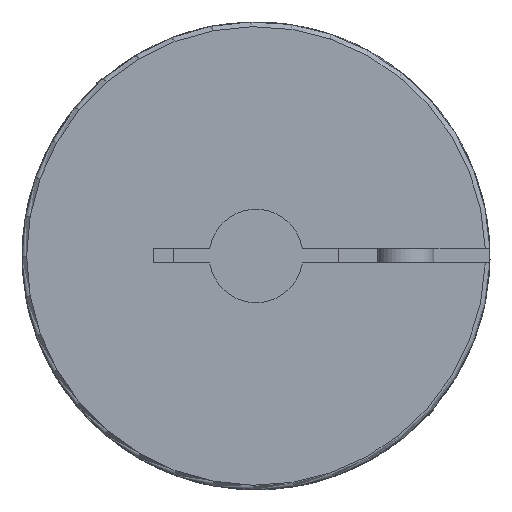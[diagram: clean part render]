
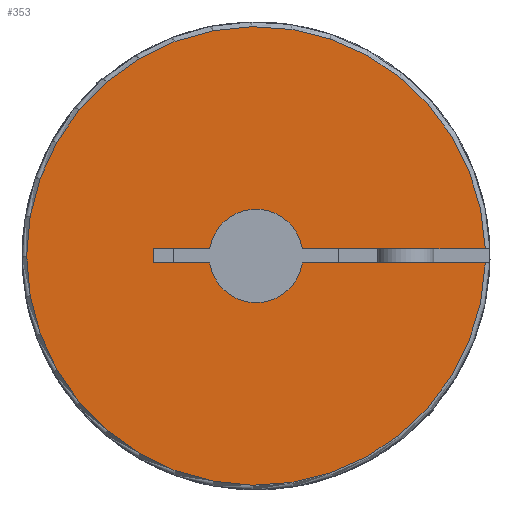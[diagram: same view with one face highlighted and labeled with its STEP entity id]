
A CAD part, left-side view. The second image highlights one B-rep face of the part: STEP entity #353.
In plain terms, the highlighted planar face has unit normal (-1, 0, 0).
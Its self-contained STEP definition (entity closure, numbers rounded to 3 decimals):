
#353 = ADVANCED_FACE( '', ( #764 ), #765, .T. );
#764 = FACE_OUTER_BOUND( '', #1417, .T. );
#765 = PLANE( '', #1418 );
#1417 = EDGE_LOOP( '', ( #2556, #2557, #2558, #2559, #2560, #2561, #2562, #2563 ) );
#1418 = AXIS2_PLACEMENT_3D( '', #2564, #2565, #2566 );
#2556 = ORIENTED_EDGE( '', *, *, #3126, .T. );
#2557 = ORIENTED_EDGE( '', *, *, #3274, .T. );
#2558 = ORIENTED_EDGE( '', *, *, #3290, .T. );
#2559 = ORIENTED_EDGE( '', *, *, #3204, .T. );
#2560 = ORIENTED_EDGE( '', *, *, #3163, .T. );
#2561 = ORIENTED_EDGE( '', *, *, #3374, .T. );
#2562 = ORIENTED_EDGE( '', *, *, #3324, .T. );
#2563 = ORIENTED_EDGE( '', *, *, #3375, .T. );
#2564 = CARTESIAN_POINT( '', ( 0., 0., 3. ) );
#2565 = DIRECTION( '', ( -1., 0., 0. ) );
#2566 = DIRECTION( '', ( 0., 0., 1. ) );
#3126 = EDGE_CURVE( '', #3718, #3716, #3719, .T. );
#3163 = EDGE_CURVE( '', #3770, #3775, #3777, .T. );
#3204 = EDGE_CURVE( '', #3838, #3770, #3839, .T. );
#3274 = EDGE_CURVE( '', #3716, #3936, #3938, .T. );
#3290 = EDGE_CURVE( '', #3936, #3838, #3960, .T. );
#3324 = EDGE_CURVE( '', #4005, #4006, #4007, .T. );
#3374 = EDGE_CURVE( '', #3775, #4005, #4065, .T. );
#3375 = EDGE_CURVE( '', #4006, #3718, #4066, .T. );
#3716 = VERTEX_POINT( '', #4648 );
#3718 = VERTEX_POINT( '', #4655 );
#3719 = CIRCLE( '', #4656, 12.25 );
#3770 = VERTEX_POINT( '', #4764 );
#3775 = VERTEX_POINT( '', #4771 );
#3777 = LINE( '', #4774, #4775 );
#3838 = VERTEX_POINT( '', #4930 );
#3839 = LINE( '', #4931, #4932 );
#3936 = VERTEX_POINT( '', #5060 );
#3938 = LINE( '', #5063, #5064 );
#3960 = CIRCLE( '', #5127, 2.5 );
#4005 = VERTEX_POINT( '', #5194 );
#4006 = VERTEX_POINT( '', #5195 );
#4007 = CIRCLE( '', #5196, 2.5 );
#4065 = LINE( '', #5334, #5335 );
#4066 = LINE( '', #5336, #5337 );
#4648 = CARTESIAN_POINT( '', ( 0., -12.244, -0.375 ) );
#4655 = CARTESIAN_POINT( '', ( 0., -12.244, 0.375 ) );
#4656 = AXIS2_PLACEMENT_3D( '', #5734, #5735, #5736 );
#4764 = CARTESIAN_POINT( '', ( 0., 5.5, -0.375 ) );
#4771 = CARTESIAN_POINT( '', ( 0., 5.5, 0.375 ) );
#4774 = CARTESIAN_POINT( '', ( 0., 5.5, 3. ) );
#4775 = VECTOR( '', #5780, 1000. );
#4930 = CARTESIAN_POINT( '', ( 0., 2.472, -0.375 ) );
#4931 = CARTESIAN_POINT( '', ( 0., 0., -0.375 ) );
#4932 = VECTOR( '', #5825, 1000. );
#5060 = CARTESIAN_POINT( '', ( 0., -2.472, -0.375 ) );
#5063 = CARTESIAN_POINT( '', ( 0., 0., -0.375 ) );
#5064 = VECTOR( '', #5916, 1000. );
#5127 = AXIS2_PLACEMENT_3D( '', #5924, #5925, #5926 );
#5194 = CARTESIAN_POINT( '', ( 0., 2.472, 0.375 ) );
#5195 = CARTESIAN_POINT( '', ( 0., -2.472, 0.375 ) );
#5196 = AXIS2_PLACEMENT_3D( '', #5969, #5970, #5971 );
#5334 = CARTESIAN_POINT( '', ( 0., 0., 0.375 ) );
#5335 = VECTOR( '', #6017, 1000. );
#5336 = CARTESIAN_POINT( '', ( 0., 0., 0.375 ) );
#5337 = VECTOR( '', #6018, 1000. );
#5734 = CARTESIAN_POINT( '', ( 0., 0., 0. ) );
#5735 = DIRECTION( '', ( -1., 0., 0. ) );
#5736 = DIRECTION( '', ( 0., 0., 1. ) );
#5780 = DIRECTION( '', ( 0., 0., 1. ) );
#5825 = DIRECTION( '', ( 0., 1., 0. ) );
#5916 = DIRECTION( '', ( 0., 1., 0. ) );
#5924 = CARTESIAN_POINT( '', ( 0., 0., 0. ) );
#5925 = DIRECTION( '', ( 1., 0., 0. ) );
#5926 = DIRECTION( '', ( 0., -1., 0. ) );
#5969 = CARTESIAN_POINT( '', ( 0., 0., 0. ) );
#5970 = DIRECTION( '', ( 1., 0., 0. ) );
#5971 = DIRECTION( '', ( 0., -1., 0. ) );
#6017 = DIRECTION( '', ( 0., -1., 0. ) );
#6018 = DIRECTION( '', ( 0., -1., 0. ) );
